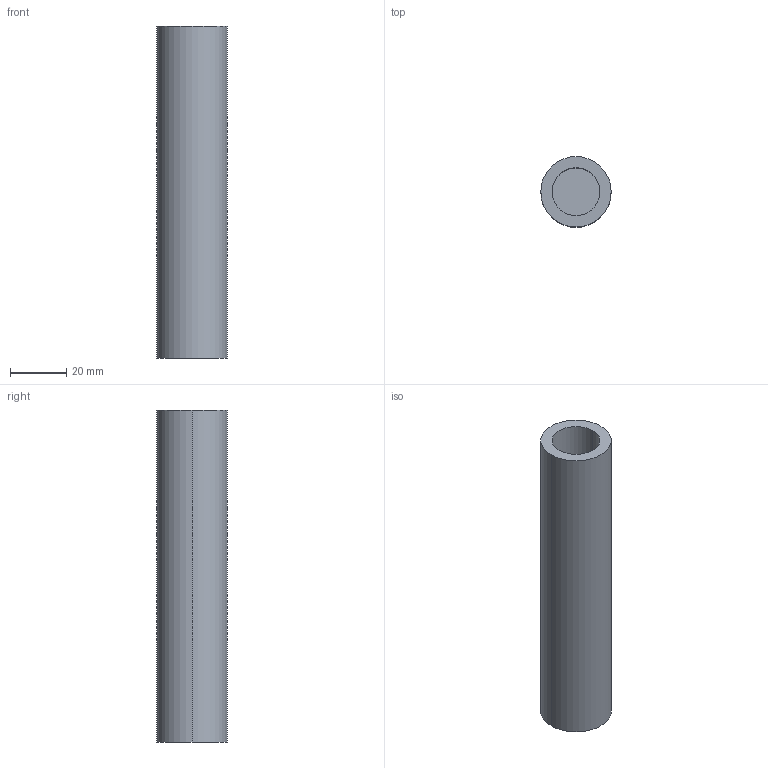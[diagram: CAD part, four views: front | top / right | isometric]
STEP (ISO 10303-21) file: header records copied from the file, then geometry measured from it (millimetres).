
FILE_DESCRIPTION (( 'STEP AP214' ), '1' );
FILE_NAME ('Optikit C-GL-150.STEP', '2020-05-19T08:24:25', ( '' ), ( '' ), 'SwSTEP 2.0', 'SolidWorks 2018', '' );
FILE_SCHEMA (( 'AUTOMOTIVE_DESIGN' ));
Length unit declared in the file: millimetre
Products named in the file (1): Optikit C-GL-150
Bounding box: 25 x 25 x 118 mm (x, y, z)
Volume: 32047.4 mm3; surface area: 16337.9 mm2
Topology: 1 solids, 1 shells, 10 faces, 18 edges, 12 vertices
Faces by surface type: cylinder 6, plane 4
Entity records: 288 total; most frequent: DIRECTION 52, CARTESIAN_POINT 41, ORIENTED_EDGE 36, AXIS2_PLACEMENT_3D 23, EDGE_CURVE 18, EDGE_LOOP 12, VERTEX_POINT 12, CIRCLE 12
